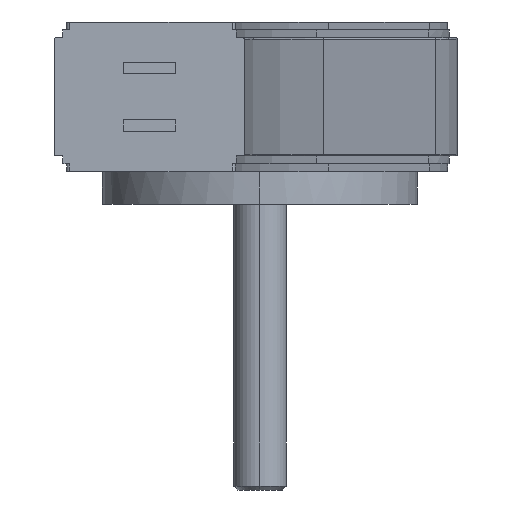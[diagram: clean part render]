
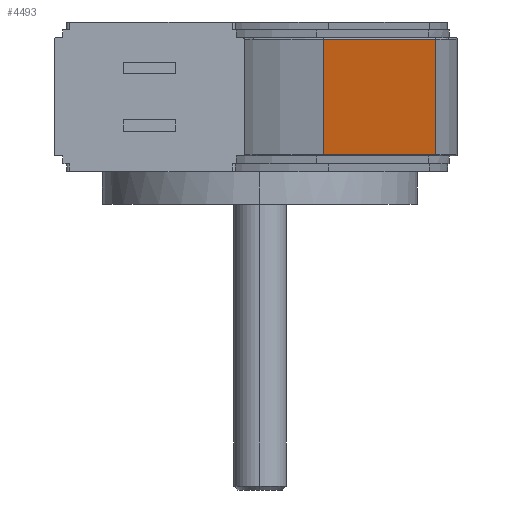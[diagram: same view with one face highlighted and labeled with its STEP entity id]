
A CAD part, left-side view. The second image highlights one B-rep face of the part: STEP entity #4493.
In plain terms, the highlighted planar face has unit normal (-0.457, -0.889, 0).
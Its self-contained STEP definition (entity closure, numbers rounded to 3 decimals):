
#147 = VERTEX_POINT ( 'NONE', #8717 ) ;
#819 = VECTOR ( 'NONE', #9765, 1000. ) ;
#935 = ORIENTED_EDGE ( 'NONE', *, *, #4026, .F. ) ;
#1657 = FACE_OUTER_BOUND ( 'NONE', #1821, .T. ) ;
#1735 = VERTEX_POINT ( 'NONE', #9600 ) ;
#1821 = EDGE_LOOP ( 'NONE', ( #4447, #9826, #8375, #935 ) ) ;
#1833 = PLANE ( 'NONE',  #8930 ) ;
#2226 = EDGE_CURVE ( 'NONE', #5306, #1735, #7635, .T. ) ;
#2389 = VECTOR ( 'NONE', #7702, 1000. ) ;
#2580 = LINE ( 'NONE', #9437, #5720 ) ;
#2987 = LINE ( 'NONE', #7097, #9405 ) ;
#3056 = LINE ( 'NONE', #4820, #819 ) ;
#3439 = CARTESIAN_POINT ( 'NONE',  ( -116.738, -24.192, -22. ) ) ;
#4026 = EDGE_CURVE ( 'NONE', #9888, #5306, #2987, .T. ) ;
#4217 = CARTESIAN_POINT ( 'NONE',  ( -33.55, -66.932, 22. ) ) ;
#4283 = DIRECTION ( 'NONE',  ( -0.457, -0.889, 0. ) ) ;
#4312 = EDGE_CURVE ( 'NONE', #147, #1735, #2580, .T. ) ;
#4447 = ORIENTED_EDGE ( 'NONE', *, *, #6300, .T. ) ;
#4493 = ADVANCED_FACE ( 'NONE', ( #1657 ), #1833, .T. ) ;
#4820 = CARTESIAN_POINT ( 'NONE',  ( -33.55, -66.932, 22. ) ) ;
#5306 = VERTEX_POINT ( 'NONE', #3439 ) ;
#5528 = DIRECTION ( 'NONE',  ( -0.889, 0.457, 0. ) ) ;
#5720 = VECTOR ( 'NONE', #10238, 1000. ) ;
#6300 = EDGE_CURVE ( 'NONE', #9888, #147, #3056, .T. ) ;
#6767 = DIRECTION ( 'NONE',  ( 0.889, -0.457, 0. ) ) ;
#7097 = CARTESIAN_POINT ( 'NONE',  ( -33.55, -66.932, -22. ) ) ;
#7635 = LINE ( 'NONE', #9360, #2389 ) ;
#7702 = DIRECTION ( 'NONE',  ( 0., 0., 1. ) ) ;
#8375 = ORIENTED_EDGE ( 'NONE', *, *, #2226, .F. ) ;
#8717 = CARTESIAN_POINT ( 'NONE',  ( -33.55, -66.932, 22. ) ) ;
#8930 = AXIS2_PLACEMENT_3D ( 'NONE', #4217, #4283, #6767 ) ;
#9360 = CARTESIAN_POINT ( 'NONE',  ( -116.738, -24.192, 22. ) ) ;
#9405 = VECTOR ( 'NONE', #5528, 1000. ) ;
#9437 = CARTESIAN_POINT ( 'NONE',  ( -33.55, -66.932, 22. ) ) ;
#9600 = CARTESIAN_POINT ( 'NONE',  ( -116.738, -24.192, 22. ) ) ;
#9624 = CARTESIAN_POINT ( 'NONE',  ( -33.55, -66.932, -22. ) ) ;
#9765 = DIRECTION ( 'NONE',  ( 0., 0., 1. ) ) ;
#9826 = ORIENTED_EDGE ( 'NONE', *, *, #4312, .T. ) ;
#9888 = VERTEX_POINT ( 'NONE', #9624 ) ;
#10238 = DIRECTION ( 'NONE',  ( -0.889, 0.457, 0. ) ) ;
